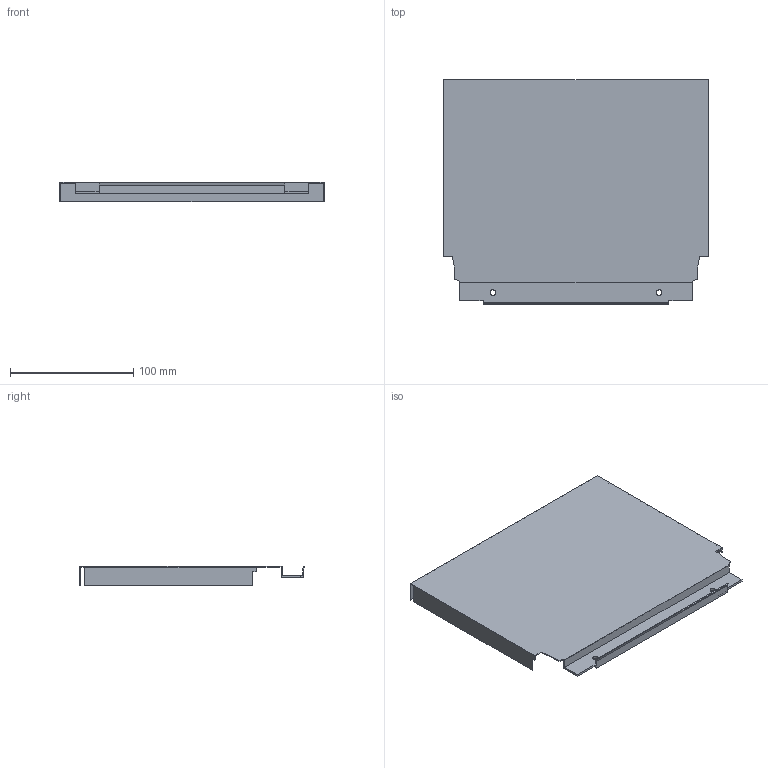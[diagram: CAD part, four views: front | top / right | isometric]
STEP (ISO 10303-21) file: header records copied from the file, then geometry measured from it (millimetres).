
FILE_DESCRIPTION (( 'STEP AP214' ), '1' );
FILE_NAME ('_DWD_XP Stahlrückwand_H182_KAB300_S17.step', '2010-07-08T12:57:41', ( 'grass' ), ( '' ), 'SwSTEP 2.0', 'SolidWorks 2010', '' );
FILE_SCHEMA (( 'AUTOMOTIVE_DESIGN' ));
Length unit declared in the file: millimetre
Products named in the file (1): _DWD_XP Stahlrückwand_H182_KAB300_S17
Bounding box: 215 x 182.49 x 16 mm (x, y, z)
Volume: 41454.8 mm3; surface area: 97366.2 mm2
Topology: 1 solids, 1 shells, 44 faces, 126 edges, 84 vertices
Faces by surface type: plane 40, cylinder 4
Entity records: 1460 total; most frequent: CARTESIAN_POINT 255, ORIENTED_EDGE 252, DIRECTION 224, EDGE_CURVE 126, LINE 118, VECTOR 118, VERTEX_POINT 84, AXIS2_PLACEMENT_3D 53
